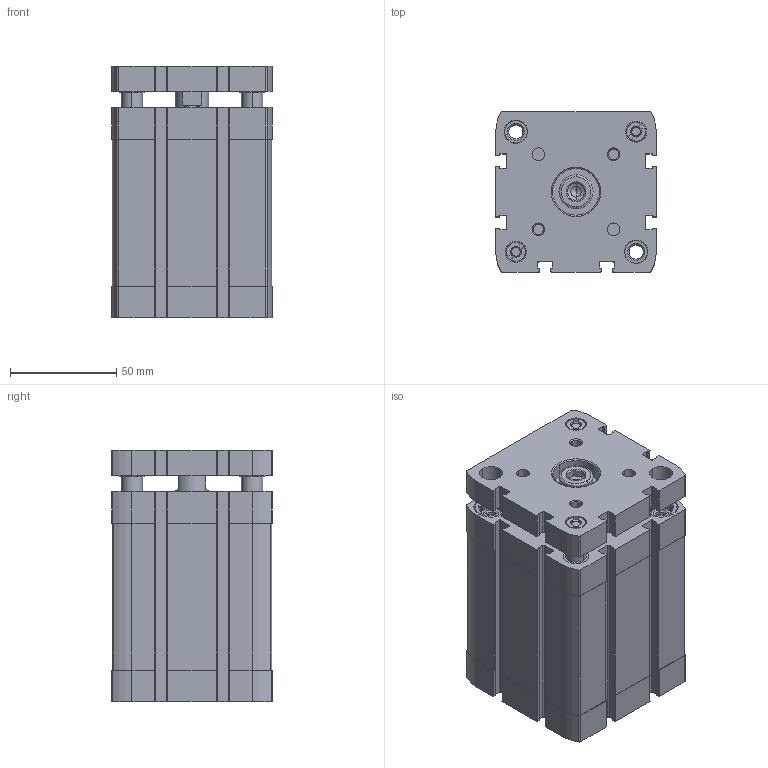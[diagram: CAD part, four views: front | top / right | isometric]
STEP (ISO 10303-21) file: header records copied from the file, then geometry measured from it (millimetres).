
FILE_DESCRIPTION (( 'STEP AP203' ), '1' );
FILE_NAME ('CCNG63-50.STEP', '2017-04-20T14:19:24', ( '' ), ( '' ), 'SwSTEP 2.0', 'SolidWorks 2016', '' );
FILE_SCHEMA (( 'CONFIG_CONTROL_DESIGN' ));
Length unit declared in the file: millimetre
Products named in the file (3): CCNG63-50; CCNG-63-50----(Z); CCNG-63-50----(KS)
Assembly tree (2 placements, depth 2):
  CCNG63-50
    CCNG-63-50----(Z)
    CCNG-63-50----(KS)
Bounding box: 75.5 x 75.5 x 118.5 mm (x, y, z)
Volume: 435169.7 mm3; surface area: 117848 mm2
Topology: 2 solids, 4 shells, 714 faces, 1924 edges, 1261 vertices
Faces by surface type: plane 358, cylinder 278, cone 72, bspline 6
Entity records: 23131 total; most frequent: CARTESIAN_POINT 4438, DIRECTION 3960, ORIENTED_EDGE 3844, EDGE_CURVE 1922, AXIS2_PLACEMENT_3D 1459, VERTEX_POINT 1261, LINE 1042, VECTOR 1042
